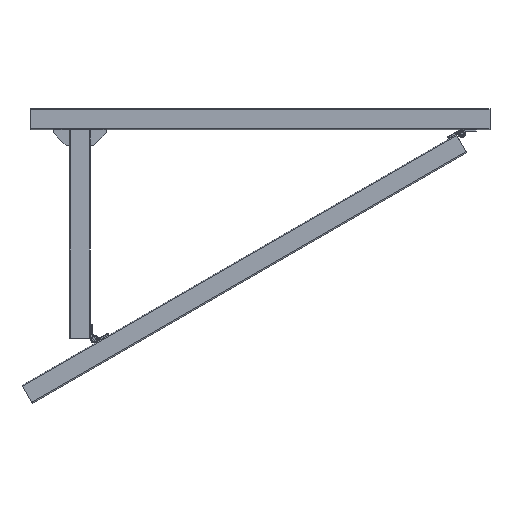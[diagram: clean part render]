
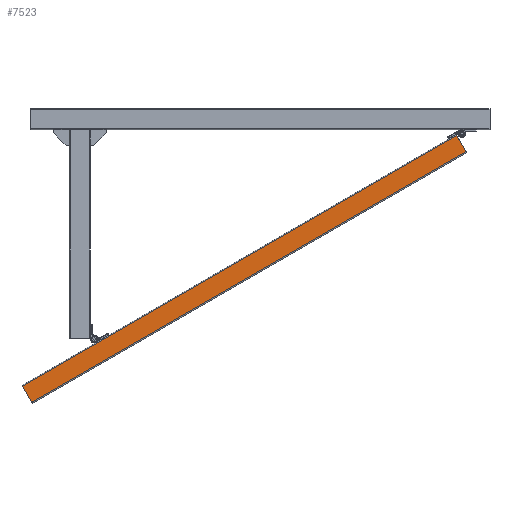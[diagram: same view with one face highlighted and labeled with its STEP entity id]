
A CAD part, front view. The second image highlights one B-rep face of the part: STEP entity #7523.
In plain terms, the highlighted planar face has unit normal (0, -1, 0).
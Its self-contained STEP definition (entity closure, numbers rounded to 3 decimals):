
#24 = CARTESIAN_POINT ( 'NONE',  ( 492.45, -20., -78.486 ) ) ;
#174 = ORIENTED_EDGE ( 'NONE', *, *, #7453, .F. ) ;
#274 = CARTESIAN_POINT ( 'NONE',  ( -569.28, -20., -639.514 ) ) ;
#994 = VERTEX_POINT ( 'NONE', #24 ) ;
#1252 = DIRECTION ( 'NONE',  ( 0., 1., 0. ) ) ;
#1469 = DIRECTION ( 'NONE',  ( 0.5, 0., -0.866 ) ) ;
#1585 = VERTEX_POINT ( 'NONE', #6618 ) ;
#1705 = ORIENTED_EDGE ( 'NONE', *, *, #7022, .F. ) ;
#1710 = LINE ( 'NONE', #4128, #4587 ) ;
#1901 = PLANE ( 'NONE',  #7034 ) ;
#1924 = LINE ( 'NONE', #3751, #6867 ) ;
#2563 = DIRECTION ( 'NONE',  ( -0.866, 0., -0.5 ) ) ;
#3642 = CARTESIAN_POINT ( 'NONE',  ( 492.45, -20., -78.486 ) ) ;
#3686 = DIRECTION ( 'NONE',  ( -0.866, 0., -0.5 ) ) ;
#3751 = CARTESIAN_POINT ( 'NONE',  ( 469.95, -20., -39.514 ) ) ;
#4075 = EDGE_CURVE ( 'NONE', #1585, #6428, #1924, .T. ) ;
#4128 = CARTESIAN_POINT ( 'NONE',  ( 469.95, -20., -39.514 ) ) ;
#4273 = CARTESIAN_POINT ( 'NONE',  ( 469.95, -20., -39.514 ) ) ;
#4587 = VECTOR ( 'NONE', #6563, 1000. ) ;
#4852 = CARTESIAN_POINT ( 'NONE',  ( -569.28, -20., -639.514 ) ) ;
#4862 = ORIENTED_EDGE ( 'NONE', *, *, #4075, .T. ) ;
#5244 = CARTESIAN_POINT ( 'NONE',  ( -546.78, -20., -678.486 ) ) ;
#5353 = EDGE_LOOP ( 'NONE', ( #7307, #174, #1705, #4862 ) ) ;
#5388 = EDGE_CURVE ( 'NONE', #6428, #7253, #6929, .T. ) ;
#5485 = VECTOR ( 'NONE', #3686, 1000. ) ;
#6200 = LINE ( 'NONE', #3642, #5485 ) ;
#6428 = VERTEX_POINT ( 'NONE', #4852 ) ;
#6563 = DIRECTION ( 'NONE',  ( 0.5, 0., -0.866 ) ) ;
#6618 = CARTESIAN_POINT ( 'NONE',  ( 469.95, -20., -39.514 ) ) ;
#6799 = DIRECTION ( 'NONE',  ( 0., 0., 1. ) ) ;
#6867 = VECTOR ( 'NONE', #2563, 1000. ) ;
#6929 = LINE ( 'NONE', #274, #7782 ) ;
#7022 = EDGE_CURVE ( 'NONE', #1585, #994, #1710, .T. ) ;
#7034 = AXIS2_PLACEMENT_3D ( 'NONE', #4273, #1252, #6799 ) ;
#7253 = VERTEX_POINT ( 'NONE', #5244 ) ;
#7307 = ORIENTED_EDGE ( 'NONE', *, *, #5388, .T. ) ;
#7319 = FACE_OUTER_BOUND ( 'NONE', #5353, .T. ) ;
#7453 = EDGE_CURVE ( 'NONE', #994, #7253, #6200, .T. ) ;
#7523 = ADVANCED_FACE ( 'NONE', ( #7319 ), #1901, .F. ) ;
#7782 = VECTOR ( 'NONE', #1469, 1000. ) ;
